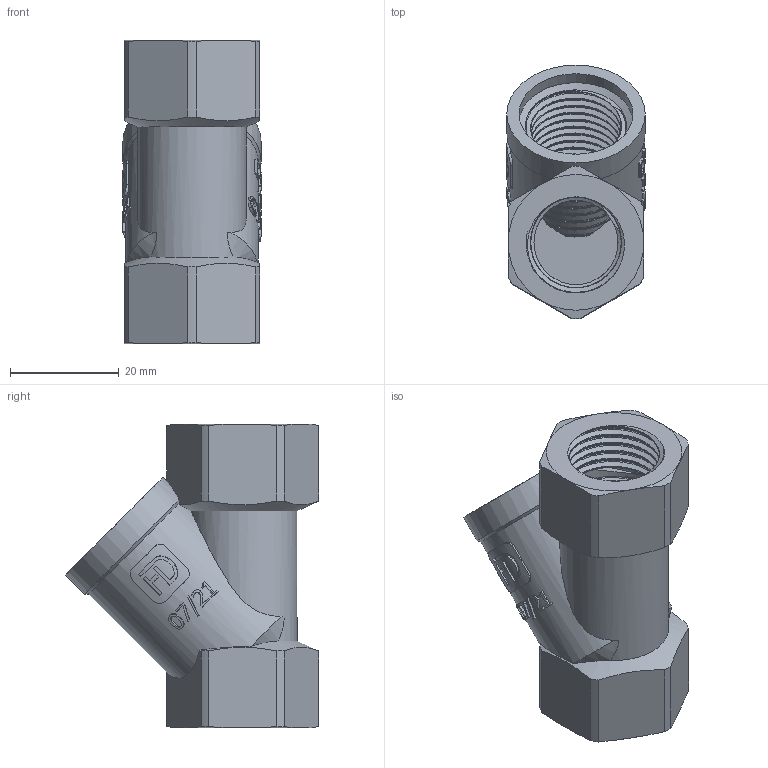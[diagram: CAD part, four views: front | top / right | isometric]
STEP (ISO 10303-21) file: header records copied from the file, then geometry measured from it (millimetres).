
FILE_DESCRIPTION(/* description */ (''),/* implementation_level */ '2;1');
FILE_NAME(/* name */ 'C:\Users\Doom\Desktop\Фадотех\F1 31.05.2021\F1 31.05.2021.stp',/* time_stamp */ '2021-11-28T22:43:30+02:00',/* author */ ('Doom'),/* organization */ (''),/* preprocessor_version */ 'ST-DEVELOPER v18',/* originating_system */ 'Autodesk Inventor 2020',/* authorisation */ '');
FILE_SCHEMA (('AUTOMOTIVE_DESIGN { 1 0 10303 214 3 1 1 }'));
Length unit declared in the file: millimetre
Products named in the file (1): F1  31.05.2021 корпус 
Bounding box: 25.5 x 46.7 x 56 mm (x, y, z)
Volume: 18128.3 mm3; surface area: 13045.1 mm2
Topology: 1 solids, 1 shells, 454 faces, 1280 edges, 838 vertices
Faces by surface type: bspline 264, cylinder 117, plane 52, cone 21
Full cylindrical faces by diameter (mm): 15.5 x2, 16.667 x21, 18.631 x21, 21 x1, 25.5 x1
Entity records: 32205 total; most frequent: CARTESIAN_POINT 22579, ORIENTED_EDGE 2558, EDGE_CURVE 1279, DIRECTION 1060, VERTEX_POINT 838, B_SPLINE_CURVE_WITH_KNOTS 714, EDGE_LOOP 485, FACE_OUTER_BOUND 454
